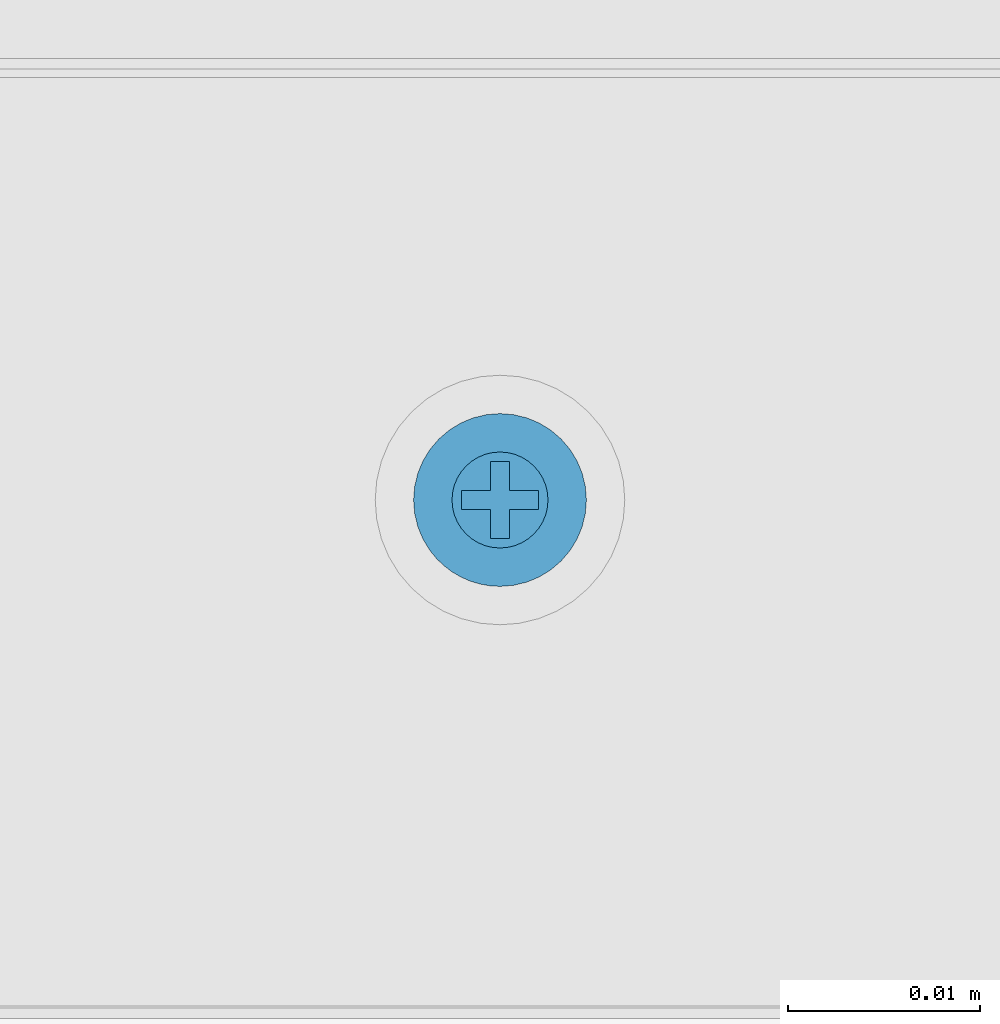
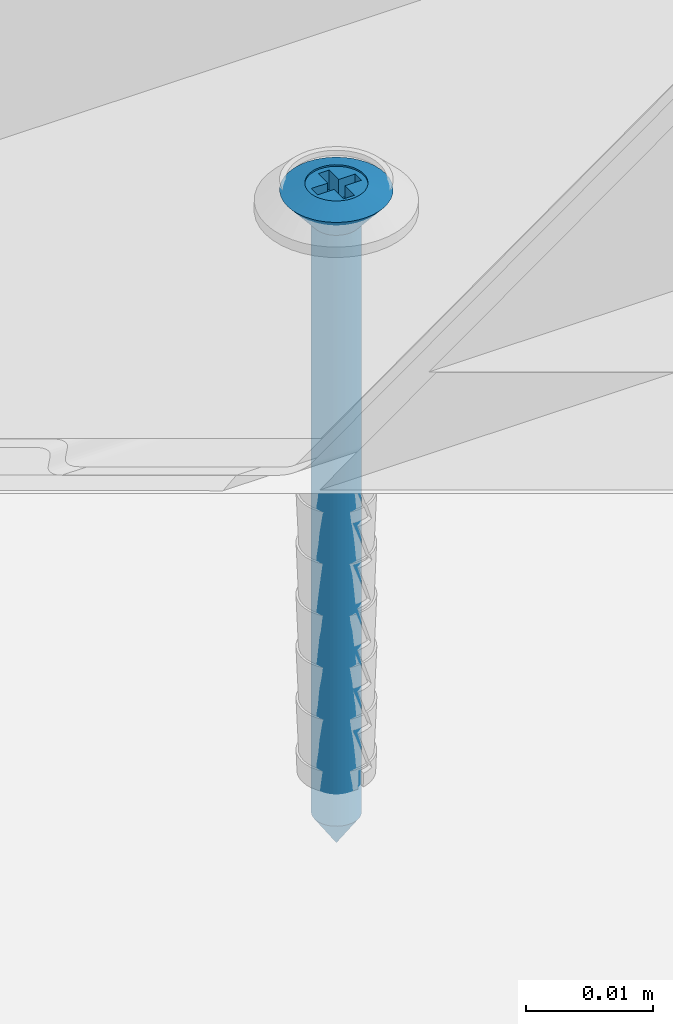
# One storey, part 18 of 37: 1 wall.
"""IFC2X3 building model written with IfcOpenShell, lengths in millimetres."""

from ifc_helpers import new_model, entity, si_unit, converted_unit, direction, frame, origin, origin_with_axes, place, context, project, spatial, faceted_brep, element, save


model = new_model("IFC2X3")

# Units and contexts
model_context = context("Model", 3, precision=1e-05, world=origin(), true_north=direction((0.0, 1.0, 0.0)))
ifc_project = project(units=[si_unit("LENGTHUNIT", "METRE", prefix="MILLI"), si_unit("AREAUNIT", "SQUARE_METRE"), si_unit("VOLUMEUNIT", "CUBIC_METRE"), converted_unit("PLANEANGLEUNIT", "DEGREE", entity("IfcPlaneAngleMeasure", 0.01745), si_unit("PLANEANGLEUNIT", "RADIAN"), dimensions=[0, 0, 0, 0, 0, 0, 0]), si_unit("SOLIDANGLEUNIT", "STERADIAN"), si_unit("MASSUNIT", "GRAM"), si_unit("TIMEUNIT", "SECOND"), si_unit("THERMODYNAMICTEMPERATUREUNIT", "DEGREE_CELSIUS"), si_unit("LUMINOUSINTENSITYUNIT", "LUMEN")], contexts=[model_context])

# Site, building, storey
site_placement = place(None, origin_with_axes())
site = spatial("IfcSite", under=ifc_project, at=site_placement, Name="Default Site", CompositionType="ELEMENT")
building_placement = place(site_placement, origin_with_axes())
building = spatial("IfcBuilding", under=site, at=building_placement, Name="Default Building", CompositionType="ELEMENT")
storey_placement = place(building_placement, origin_with_axes())
storey = spatial("IfcBuildingStorey", under=building, at=storey_placement, Name="Default Building Storey", CompositionType="ELEMENT", Elevation=0.0)

# Wall
wall_placement = place(storey_placement, frame((4202.454370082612, 5452.424146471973, 59.39039522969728), z_axis=(7.620176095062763e-14, -6.858158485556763e-13, 1.0), x_axis=(1.0, -9.714451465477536e-17, -7.620176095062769e-14)))
element("IfcWall", 1, at=wall_placement, inside=storey, Name="Kołek rozporowy min. fi 6", context=model_context, shape_type="Brep", body=[
    faceted_brep([(-1438.31414949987, -3453.283223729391, -0.4642567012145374), (-1435.814149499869, -3453.283223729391, -3.464256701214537), (-1435.78952618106, -3452.97035479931, -3.464256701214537), (-1438.258747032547, -3452.57926863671, -0.4642567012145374), (-1435.71626253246, -3452.665189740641, -3.464256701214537), (-1438.093903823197, -3451.892647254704, -0.4642567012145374), (-1435.596162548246, -3452.375242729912, -3.464256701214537), (-1437.823678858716, -3451.240266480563, -0.4642567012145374), (-1435.432183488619, -3452.107653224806, -3.464256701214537), (-1437.454725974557, -3450.638190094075, -0.4642567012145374), (-1435.228363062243, -3451.869010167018, -3.464256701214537), (-1436.996130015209, -3450.101243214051, -0.4642567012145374), (-1434.989720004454, -3451.665189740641, -3.464256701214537), (-1436.459183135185, -3449.642647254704, -0.4642567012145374), (-1434.722130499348, -3451.501210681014, -3.464256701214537), (-1435.857106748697, -3449.273694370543, -0.4642567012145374), (-1434.432183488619, -3451.381110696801, -3.464256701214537), (-1435.204725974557, -3449.003469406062, -0.4642567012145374), (-1434.12701842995, -3451.307847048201, -3.464256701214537), (-1434.51810459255, -3448.838626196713, -0.4642567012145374), (-1433.814149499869, -3451.283223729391, -3.464256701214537), (-1433.814149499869, -3448.783223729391, -0.4642567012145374), (-1433.501280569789, -3451.307847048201, -3.464256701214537), (-1433.110194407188, -3448.838626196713, -0.4642567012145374), (-1433.19611551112, -3451.381110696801, -3.464256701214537), (-1432.423573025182, -3449.003469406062, -0.4642567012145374), (-1432.906168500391, -3451.501210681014, -3.464256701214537), (-1431.771192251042, -3449.273694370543, -0.4642567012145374), (-1432.638578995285, -3451.665189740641, -3.464256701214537), (-1431.169115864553, -3449.642647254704, -0.4642567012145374), (-1432.399935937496, -3451.869010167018, -3.464256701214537), (-1430.63216898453, -3450.101243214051, -0.4642567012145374), (-1432.196115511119, -3452.107653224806, -3.464256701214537), (-1430.173573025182, -3450.638190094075, -0.4642567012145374), (-1432.032136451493, -3452.375242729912, -3.464256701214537), (-1429.804620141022, -3451.240266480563, -0.4642567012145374), (-1431.912036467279, -3452.665189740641, -3.464256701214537), (-1429.534395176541, -3451.892647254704, -0.4642567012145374), (-1431.838772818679, -3453.596092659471, -3.464256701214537), (-1429.369551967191, -3453.987178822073, -0.4642567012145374), (-1429.314149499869, -3453.283223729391, -0.4642567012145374), (-1431.81414949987, -3453.283223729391, -3.464256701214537), (-1429.369551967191, -3452.57926863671, -0.4642567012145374), (-1431.838772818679, -3452.97035479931, -3.464256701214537), (-1431.912036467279, -3453.901257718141, -3.464256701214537), (-1429.534395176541, -3454.673800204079, -0.4642567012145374), (-1432.032136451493, -3454.19120472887, -3.464256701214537), (-1429.804620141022, -3455.326180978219, -0.4642567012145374), (-1432.196115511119, -3454.458794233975, -3.464256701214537), (-1430.173573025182, -3455.928257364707, -0.4642567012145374), (-1432.399935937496, -3454.697437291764, -3.464256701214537), (-1430.63216898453, -3456.465204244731, -0.4642567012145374), (-1432.638578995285, -3454.901257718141, -3.464256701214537), (-1431.169115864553, -3456.923800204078, -0.4642567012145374), (-1432.906168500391, -3455.065236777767, -3.464256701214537), (-1431.771192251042, -3457.292753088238, -0.4642567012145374), (-1433.19611551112, -3455.185336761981, -3.464256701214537), (-1432.423573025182, -3457.562978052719, -0.4642567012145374), (-1433.501280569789, -3455.258600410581, -3.464256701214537), (-1433.110194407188, -3457.727821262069, -0.4642567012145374), (-1433.814149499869, -3455.283223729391, -3.464256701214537), (-1433.814149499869, -3457.783223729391, -0.4642567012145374), (-1434.34306778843, -3457.752031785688, -0.4642567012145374), (-1434.12701842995, -3455.258600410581, -3.464256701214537), (-1434.432183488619, -3455.185336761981, -3.464256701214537), (-1434.864653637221, -3457.658888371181, -0.4642567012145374), (-1435.371676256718, -3457.505084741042, -0.4642567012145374), (-1434.722130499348, -3455.065236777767, -3.464256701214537), (-1435.857106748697, -3457.292753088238, -0.4642567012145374), (-1434.989720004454, -3454.901257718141, -3.464256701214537), (-1435.228363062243, -3454.697437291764, -3.464256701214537), (-1436.314215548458, -3457.024836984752, -0.4642567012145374), (-1436.736665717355, -3456.705050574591, -0.4642567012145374), (-1437.11860079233, -3456.337827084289, -0.4642567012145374), (-1437.454725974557, -3455.928257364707, -0.4642567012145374), (-1435.432183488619, -3454.458794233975, -3.464256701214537), (-1435.596162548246, -3454.19120472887, -3.464256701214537), (-1437.823678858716, -3455.326180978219, -0.4642567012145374), (-1435.71626253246, -3453.901257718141, -3.464256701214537), (-1438.093903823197, -3454.673800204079, -0.4642567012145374), (-1435.78952618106, -3453.596092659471, -3.464256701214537), (-1438.258747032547, -3453.987178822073, -0.4642567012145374), (-1434.205235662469, -3455.752444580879, 0.2007375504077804), (-1433.814149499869, -3455.78322372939, 0.2007375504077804), (-1434.586691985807, -3455.660865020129, 0.2007375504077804), (-1434.949125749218, -3455.510740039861, 0.2007375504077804), (-1435.283612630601, -3455.305766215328, 0.2007375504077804), (-1435.581916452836, -3455.050990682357, 0.2007375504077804), (-1435.836691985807, -3454.752686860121, 0.2007375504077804), (-1436.04166581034, -3454.41819997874, 0.2007375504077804), (-1436.191790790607, -3454.055766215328, 0.2007375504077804), (-1436.283370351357, -3453.674309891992, 0.2007375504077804), (-1436.314149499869, -3453.283223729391, 0.2007375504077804), (-1436.283370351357, -3452.892137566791, 0.2007375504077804), (-1436.191790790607, -3452.510681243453, 0.2007375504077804), (-1436.04166581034, -3452.148247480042, 0.2007375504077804), (-1435.836691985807, -3451.81376059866, 0.200737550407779), (-1435.581916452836, -3451.515456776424, 0.2007375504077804), (-1435.283612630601, -3451.260681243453, 0.2007375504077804), (-1434.949125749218, -3451.05570741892, 0.2007375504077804), (-1434.586691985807, -3450.905582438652, 0.2007375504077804), (-1433.423063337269, -3450.814002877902, 0.2007375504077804), (-1433.814149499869, -3450.783223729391, 0.2007375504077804), (-1434.205235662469, -3450.814002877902, 0.2007375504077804), (-1433.041607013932, -3450.905582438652, 0.2007375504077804), (-1432.67917325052, -3451.05570741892, 0.2007375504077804), (-1432.344686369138, -3451.260681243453, 0.2007375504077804), (-1432.046382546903, -3451.515456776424, 0.2007375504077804), (-1431.791607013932, -3451.81376059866, 0.2007375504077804), (-1431.586633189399, -3452.148247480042, 0.2007375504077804), (-1431.436508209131, -3452.510681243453, 0.2007375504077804), (-1431.344928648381, -3452.892137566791, 0.2007375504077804), (-1431.314149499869, -3453.283223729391, 0.2007375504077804), (-1431.344928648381, -3453.674309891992, 0.2007375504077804), (-1431.436508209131, -3454.055766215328, 0.2007375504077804), (-1431.586633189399, -3454.41819997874, 0.2007375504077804), (-1431.791607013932, -3454.752686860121, 0.2007375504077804), (-1432.046382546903, -3455.050990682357, 0.2007375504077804), (-1432.344686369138, -3455.305766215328, 0.2007375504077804), (-1432.67917325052, -3455.510740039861, 0.2007375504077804), (-1433.041607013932, -3455.660865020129, 0.2007375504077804), (-1433.423063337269, -3455.752444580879, 0.2007375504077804), (-1433.814149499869, -3453.283223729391, -63.46425670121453), (-1435.789526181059, -3452.97035479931, -60.46425670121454), (-1435.814149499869, -3453.283223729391, -60.46425670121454), (-1435.716262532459, -3452.665189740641, -60.46425670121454), (-1435.596162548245, -3452.375242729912, -60.46425670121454), (-1435.432183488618, -3452.107653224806, -60.46425670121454), (-1435.228363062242, -3451.869010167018, -60.46425670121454), (-1434.989720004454, -3451.665189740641, -60.46425670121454), (-1434.722130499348, -3451.501210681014, -60.46425670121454), (-1434.432183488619, -3451.381110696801, -60.46425670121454), (-1434.127018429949, -3451.307847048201, -60.46425670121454), (-1433.814149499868, -3451.283223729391, -60.46425670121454), (-1433.501280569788, -3451.307847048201, -60.46425670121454), (-1433.196115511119, -3451.381110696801, -60.46425670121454), (-1432.90616850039, -3451.501210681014, -60.46425670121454), (-1432.638578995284, -3451.665189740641, -60.46425670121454), (-1432.399935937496, -3451.869010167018, -60.46425670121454), (-1432.196115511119, -3452.107653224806, -60.46425670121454), (-1432.032136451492, -3452.375242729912, -60.46425670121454), (-1431.912036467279, -3452.665189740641, -60.46425670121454), (-1431.838772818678, -3452.97035479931, -60.46425670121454), (-1431.814149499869, -3453.283223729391, -60.46425670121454), (-1431.838772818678, -3453.596092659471, -60.46425670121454), (-1431.912036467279, -3453.901257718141, -60.46425670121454), (-1432.032136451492, -3454.19120472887, -60.46425670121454), (-1432.196115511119, -3454.458794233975, -60.46425670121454), (-1432.399935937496, -3454.697437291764, -60.46425670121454), (-1432.638578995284, -3454.901257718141, -60.46425670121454), (-1432.90616850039, -3455.065236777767, -60.46425670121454), (-1433.196115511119, -3455.185336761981, -60.46425670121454), (-1433.501280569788, -3455.258600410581, -60.46425670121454), (-1433.814149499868, -3455.283223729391, -60.46425670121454), (-1434.127018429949, -3455.258600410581, -60.46425670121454), (-1434.432183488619, -3455.185336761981, -60.46425670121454), (-1434.722130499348, -3455.065236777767, -60.46425670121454), (-1434.989720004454, -3454.901257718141, -60.46425670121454), (-1435.228363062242, -3454.697437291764, -60.46425670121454), (-1435.432183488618, -3454.458794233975, -60.46425670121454), (-1435.596162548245, -3454.19120472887, -60.46425670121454), (-1435.716262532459, -3453.901257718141, -60.46425670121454), (-1435.789526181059, -3453.596092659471, -60.46425670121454), (-1435.814149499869, -3453.783223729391, 0.04999999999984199), (-1436.04166581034, -3454.41819997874, 0.04999999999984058), (-1436.191790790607, -3454.055766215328, 0.04999999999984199), (-1435.814149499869, -3452.783223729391, 0.04999999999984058), (-1434.314149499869, -3453.783223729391, 0.04999999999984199), (-1434.314149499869, -3455.28322372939, 0.04999999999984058), (-1433.314149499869, -3455.28322372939, 0.04999999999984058), (-1433.314149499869, -3453.783223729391, 0.04999999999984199), (-1431.814149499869, -3453.783223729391, 0.04999999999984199), (-1431.814149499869, -3452.783223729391, 0.04999999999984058), (-1433.314149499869, -3452.783223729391, 0.04999999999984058), (-1433.314149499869, -3451.283223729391, 0.04999999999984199), (-1434.314149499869, -3451.283223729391, 0.04999999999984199), (-1434.314149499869, -3452.783223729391, 0.04999999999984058), (-1436.283370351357, -3453.674309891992, 0.04999999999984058), (-1436.314149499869, -3453.283223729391, 0.04999999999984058), (-1436.283370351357, -3452.892137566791, 0.04999999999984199), (-1436.191790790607, -3452.510681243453, 0.04999999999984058), (-1436.04166581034, -3452.148247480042, 0.04999999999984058), (-1435.836691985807, -3451.81376059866, 0.04999999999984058), (-1435.581916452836, -3451.515456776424, 0.04999999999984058), (-1435.283612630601, -3451.260681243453, 0.04999999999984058), (-1434.949125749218, -3451.05570741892, 0.04999999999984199), (-1434.586691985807, -3450.905582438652, 0.04999999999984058), (-1434.205235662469, -3450.814002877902, 0.04999999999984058), (-1433.814149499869, -3450.783223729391, 0.04999999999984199), (-1433.423063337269, -3450.814002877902, 0.04999999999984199), (-1433.041607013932, -3450.905582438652, 0.04999999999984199), (-1432.67917325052, -3451.05570741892, 0.04999999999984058), (-1432.344686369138, -3451.260681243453, 0.04999999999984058), (-1432.046382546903, -3451.515456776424, 0.04999999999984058), (-1431.791607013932, -3451.81376059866, 0.04999999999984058), (-1431.586633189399, -3452.148247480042, 0.04999999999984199), (-1431.436508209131, -3452.510681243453, 0.04999999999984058), (-1431.344928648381, -3452.892137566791, 0.04999999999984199), (-1431.314149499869, -3453.283223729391, 0.04999999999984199), (-1431.344928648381, -3453.674309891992, 0.04999999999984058), (-1431.436508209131, -3454.055766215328, 0.04999999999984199), (-1431.586633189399, -3454.41819997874, 0.04999999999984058), (-1431.791607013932, -3454.752686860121, 0.04999999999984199), (-1432.046382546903, -3455.050990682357, 0.04999999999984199), (-1432.344686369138, -3455.305766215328, 0.04999999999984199), (-1432.67917325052, -3455.510740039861, 0.04999999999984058), (-1433.041607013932, -3455.660865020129, 0.04999999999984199), (-1433.423063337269, -3455.752444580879, 0.04999999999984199), (-1433.814149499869, -3455.78322372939, 0.04999999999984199), (-1434.205235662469, -3455.752444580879, 0.04999999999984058), (-1434.586691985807, -3455.660865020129, 0.04999999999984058), (-1434.949125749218, -3455.510740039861, 0.04999999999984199), (-1435.283612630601, -3455.305766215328, 0.04999999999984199), (-1435.581916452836, -3455.050990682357, 0.04999999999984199), (-1435.836691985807, -3454.752686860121, 0.04999999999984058), (-1434.314149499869, -3452.783223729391, -1.79926244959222), (-1434.314149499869, -3451.283223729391, -1.799262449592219), (-1433.314149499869, -3451.283223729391, -1.799262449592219), (-1433.314149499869, -3452.783223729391, -1.79926244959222), (-1431.81414949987, -3452.783223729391, -1.79926244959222), (-1431.81414949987, -3453.783223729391, -1.799262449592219), (-1433.314149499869, -3453.783223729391, -1.799262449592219), (-1433.314149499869, -3455.28322372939, -1.79926244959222), (-1434.314149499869, -3455.28322372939, -1.79926244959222), (-1434.314149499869, -3453.783223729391, -1.799262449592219), (-1435.814149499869, -3453.783223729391, -1.799262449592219), (-1435.814149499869, -3452.783223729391, -1.79926244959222)], [[[0, 1, 2, 3]], [[4, 5, 3, 2]], [[6, 7, 5, 4]], [[7, 6, 8, 9]], [[10, 11, 9, 8]], [[11, 10, 12, 13]], [[14, 15, 13, 12]], [[16, 17, 15, 14]], [[17, 16, 18, 19]], [[20, 21, 19, 18]], [[21, 20, 22, 23]], [[24, 25, 23, 22]], [[26, 27, 25, 24]], [[27, 26, 28, 29]], [[30, 31, 29, 28]], [[31, 30, 32, 33]], [[34, 35, 33, 32]], [[36, 37, 35, 34]], [[38, 39, 40, 41]], [[41, 40, 42, 43]], [[37, 36, 43, 42]], [[44, 45, 39, 38]], [[46, 47, 45, 44]], [[47, 46, 48, 49]], [[50, 51, 49, 48]], [[51, 50, 52, 53]], [[54, 55, 53, 52]], [[56, 57, 55, 54]], [[57, 56, 58, 59]], [[60, 61, 59, 58]], [[62, 61, 63]], [[61, 60, 63]], [[63, 64, 62]], [[64, 65, 62]], [[66, 65, 64]], [[64, 67, 66]], [[67, 68, 66]], [[69, 70, 71]], [[70, 72, 71]], [[71, 68, 69]], [[68, 67, 69]], [[70, 73, 72]], [[74, 73, 75]], [[73, 70, 75]], [[76, 77, 74, 75]], [[78, 79, 77, 76]], [[79, 78, 80, 81]], [[1, 0, 81, 80]], [[82, 83, 62]], [[83, 61, 62]], [[62, 65, 82]], [[65, 84, 82]], [[66, 68, 84]], [[68, 85, 84]], [[84, 65, 66]], [[86, 85, 71]], [[85, 68, 71]], [[72, 73, 87]], [[87, 86, 72]], [[86, 71, 72]], [[88, 87, 74]], [[87, 73, 74]], [[77, 89, 88, 74]], [[79, 90, 89, 77]], [[90, 79, 81, 91]], [[0, 92, 91, 81]], [[92, 0, 3, 93]], [[5, 94, 93, 3]], [[7, 95, 94, 5]], [[95, 7, 9, 96]], [[11, 97, 96, 9]], [[97, 11, 13, 98]], [[15, 99, 98, 13]], [[17, 100, 99, 15]], [[23, 101, 102, 21]], [[21, 102, 103, 19]], [[100, 17, 19, 103]], [[25, 104, 101, 23]], [[27, 105, 104, 25]], [[105, 27, 29, 106]], [[31, 107, 106, 29]], [[107, 31, 33, 108]], [[35, 109, 108, 33]], [[37, 110, 109, 35]], [[110, 37, 42, 111]], [[40, 112, 111, 42]], [[112, 40, 39, 113]], [[45, 114, 113, 39]], [[47, 115, 114, 45]], [[115, 47, 49, 116]], [[51, 117, 116, 49]], [[117, 51, 53, 118]], [[55, 119, 118, 53]], [[57, 120, 119, 55]], [[120, 57, 59, 121]], [[61, 83, 121, 59]], [[122, 123, 124]], [[122, 125, 123]], [[122, 126, 125]], [[127, 126, 122]], [[122, 128, 127]], [[129, 128, 122]], [[122, 130, 129]], [[122, 131, 130]], [[132, 131, 122]], [[122, 133, 132]], [[134, 133, 122]], [[122, 135, 134]], [[122, 136, 135]], [[137, 136, 122]], [[122, 138, 137]], [[139, 138, 122]], [[122, 140, 139]], [[122, 141, 140]], [[142, 141, 122]], [[122, 143, 142]], [[144, 143, 122]], [[122, 145, 144]], [[122, 146, 145]], [[147, 146, 122]], [[122, 148, 147]], [[149, 148, 122]], [[122, 150, 149]], [[122, 151, 150]], [[152, 151, 122]], [[122, 153, 152]], [[154, 153, 122]], [[122, 155, 154]], [[122, 156, 155]], [[157, 156, 122]], [[122, 158, 157]], [[159, 158, 122]], [[122, 160, 159]], [[122, 161, 160]], [[162, 161, 122]], [[124, 162, 122]], [[1, 124, 123, 2]], [[125, 4, 2, 123]], [[126, 6, 4, 125]], [[6, 126, 127, 8]], [[128, 10, 8, 127]], [[10, 128, 129, 12]], [[130, 14, 12, 129]], [[131, 16, 14, 130]], [[16, 131, 132, 18]], [[133, 20, 18, 132]], [[20, 133, 134, 22]], [[135, 24, 22, 134]], [[136, 26, 24, 135]], [[26, 136, 137, 28]], [[138, 30, 28, 137]], [[30, 138, 139, 32]], [[140, 34, 32, 139]], [[141, 36, 34, 140]], [[144, 38, 41, 143]], [[143, 41, 43, 142]], [[36, 141, 142, 43]], [[145, 44, 38, 144]], [[146, 46, 44, 145]], [[46, 146, 147, 48]], [[148, 50, 48, 147]], [[50, 148, 149, 52]], [[150, 54, 52, 149]], [[151, 56, 54, 150]], [[56, 151, 152, 58]], [[153, 60, 58, 152]], [[60, 153, 154, 63]], [[155, 64, 63, 154]], [[156, 67, 64, 155]], [[67, 156, 157, 69]], [[158, 70, 69, 157]], [[70, 158, 159, 75]], [[160, 76, 75, 159]], [[161, 78, 76, 160]], [[78, 161, 162, 80]], [[124, 1, 80, 162]], [[163, 164, 165, 166]], [[163, 167, 168, 169, 170, 171, 172, 173, 174, 175, 176, 166, 165, 177, 178, 179, 180, 181, 182, 183, 184, 185, 186, 187, 188, 189, 190, 191, 192, 193, 194, 195, 196, 197, 198, 199, 200, 201, 202, 203, 204, 205, 206, 207, 208, 209, 210, 211, 212, 213, 214, 164]], [[199, 198, 112, 113]], [[113, 114, 200, 199]], [[114, 115, 201, 200]], [[202, 201, 115, 116]], [[116, 117, 203, 202]], [[204, 203, 117, 118]], [[118, 119, 205, 204]], [[119, 120, 206, 205]], [[207, 206, 120, 121]], [[121, 83, 208, 207]], [[209, 208, 83, 82]], [[82, 84, 210, 209]], [[84, 85, 211, 210]], [[212, 211, 85, 86]], [[86, 87, 213, 212]], [[214, 213, 87, 88]], [[88, 89, 164, 214]], [[89, 90, 165, 164]], [[92, 93, 179, 178]], [[91, 92, 178, 177]], [[177, 165, 90, 91]], [[93, 94, 180, 179]], [[94, 95, 181, 180]], [[182, 181, 95, 96]], [[96, 97, 183, 182]], [[184, 183, 97, 98]], [[98, 99, 185, 184]], [[99, 100, 186, 185]], [[187, 186, 100, 103]], [[103, 102, 188, 187]], [[189, 188, 102, 101]], [[101, 104, 190, 189]], [[104, 105, 191, 190]], [[192, 191, 105, 106]], [[106, 107, 193, 192]], [[194, 193, 107, 108]], [[108, 109, 195, 194]], [[109, 110, 196, 195]], [[197, 196, 110, 111]], [[111, 112, 198, 197]], [[215, 216, 217, 218, 219, 220, 221, 222, 223, 224, 225, 226]], [[216, 175, 174, 217]], [[215, 176, 175, 216]], [[226, 166, 176, 215]], [[225, 163, 166, 226]], [[224, 167, 163, 225]], [[223, 168, 167, 224]], [[222, 169, 168, 223]], [[221, 170, 169, 222]], [[220, 171, 170, 221]], [[219, 172, 171, 220]], [[218, 173, 172, 219]], [[217, 174, 173, 218]]]),
])

save(model, "model.ifc")
